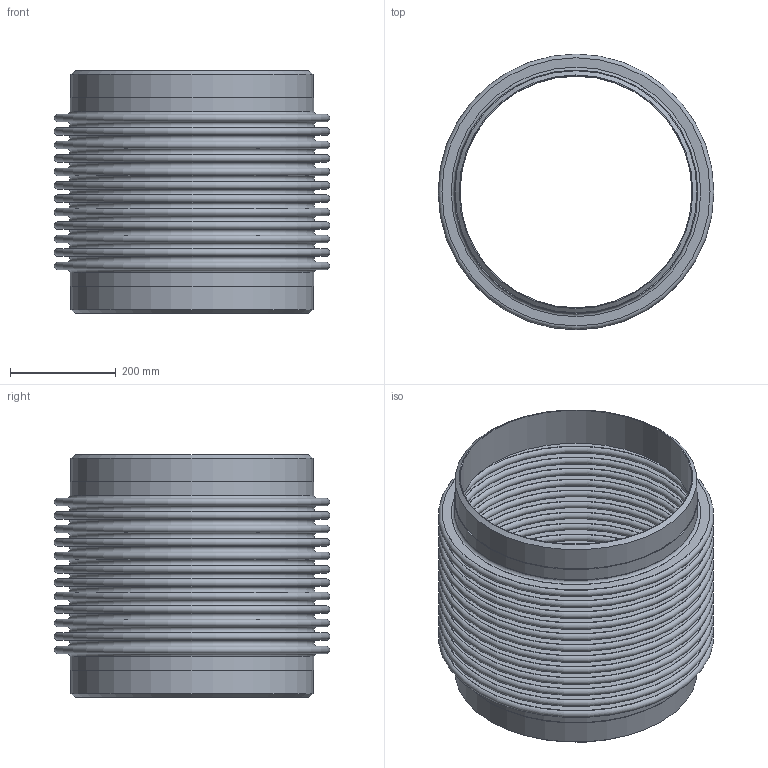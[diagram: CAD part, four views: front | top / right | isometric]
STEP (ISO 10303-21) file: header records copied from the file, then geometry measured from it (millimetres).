
FILE_DESCRIPTION(/* description */ ('EXPANSION JOINT,SINGLE, WELD ENDS,4 INCH NOMINAL'),/* implementation_level */ '2;1');
FILE_NAME(/* name */ 'ASSEMBLY US-18-12-150L.stp',/* time_stamp */ '2026-07-30T07:50:11-05:00',/* author */ ('jorgef'),/* organization */ (''),/* preprocessor_version */ 'ST-DEVELOPER v20.1',/* originating_system */ 'Autodesk Inventor 2026',/* authorisation */ '');
FILE_SCHEMA (('AUTOMOTIVE_DESIGN { 1 0 10303 214 3 1 1 }'));
Length unit declared in the file: inch
Products named in the file (3): ASSEMBLY  US-18-12-150L; STOCK BELLOW - US-18-12-150L; PIPE- US-18-12-150L
Assembly tree (3 placements, depth 2):
  ASSEMBLY  US-18-12-150L
    STOCK BELLOW - US-18-12-150L
    PIPE- US-18-12-150L  x2
Bounding box: 520.7 x 520.7 x 457.2 mm (x, y, z)
Volume: 4189989.2 mm3; surface area: 3393306.5 mm2
Topology: 5 solids, 5 shells, 118 faces, 180 edges, 121 vertices
Faces by surface type: plane 58, torus 50, cylinder 8, cone 2
Full cylindrical faces by diameter (mm): 438.15 x2, 457.2 x4, 460.248 x2
Entity records: 2769 total; most frequent: DIRECTION 573, CARTESIAN_POINT 405, ORIENTED_EDGE 342, AXIS2_PLACEMENT_3D 283, EDGE_CURVE 171, EDGE_LOOP 169, CIRCLE 164, VERTEX_POINT 114
